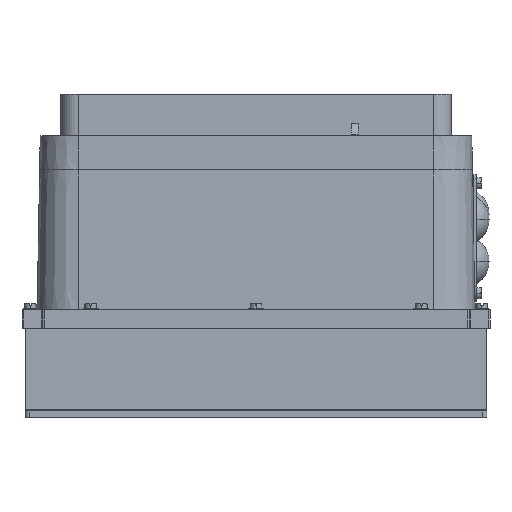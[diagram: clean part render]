
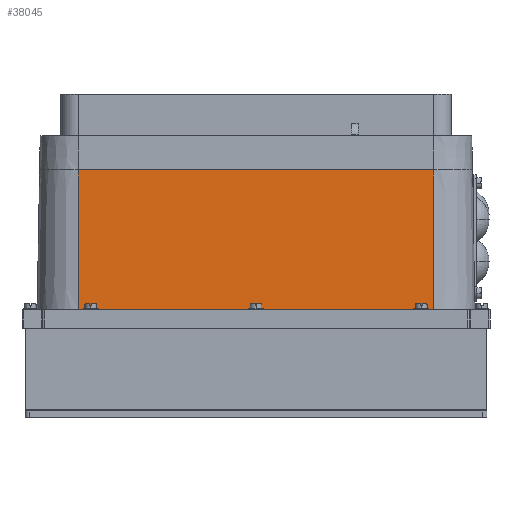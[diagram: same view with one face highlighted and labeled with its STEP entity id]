
A CAD part, left-side view. The second image highlights one B-rep face of the part: STEP entity #38045.
In plain terms, the highlighted planar face has unit normal (-1, 0, 0.018) as drawn and (-1, 0.017, 0) by its records, which use the part's own axes.
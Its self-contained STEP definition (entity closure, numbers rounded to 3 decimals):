
#26113=DIRECTION('',(0.017,1.,0.));
#26114=VECTOR('',#26113,101.515);
#26115=CARTESIAN_POINT('',(11.,13.5,-41.));
#26116=LINE('',#26115,#26114);
#26117=DIRECTION('',(0.,0.,-1.));
#26118=VECTOR('',#26117,258.);
#26119=CARTESIAN_POINT('',(12.772,115.,-41.));
#26120=LINE('',#26119,#26118);
#26173=DIRECTION('',(0.,0.,-1.));
#26174=VECTOR('',#26173,10.5);
#26175=CARTESIAN_POINT('',(11.009,14.,-284.75));
#26176=LINE('',#26175,#26174);
#26177=DIRECTION('',(-0.017,-1.,0.));
#26178=VECTOR('',#26177,0.5);
#26179=CARTESIAN_POINT('',(11.009,14.,-295.25));
#26180=LINE('',#26179,#26178);
#26181=DIRECTION('',(0.,0.,-1.));
#26182=VECTOR('',#26181,3.75);
#26183=CARTESIAN_POINT('',(11.,13.5,-295.25));
#26184=LINE('',#26183,#26182);
#26185=DIRECTION('',(0.,0.,-1.));
#26186=VECTOR('',#26185,3.75);
#26187=CARTESIAN_POINT('',(11.,13.5,-41.));
#26188=LINE('',#26187,#26186);
#26189=DIRECTION('',(0.,0.,-1.));
#26190=VECTOR('',#26189,10.5);
#26191=CARTESIAN_POINT('',(11.009,14.,-44.75));
#26192=LINE('',#26191,#26190);
#26193=DIRECTION('',(-0.017,-1.,0.));
#26194=VECTOR('',#26193,0.5);
#26195=CARTESIAN_POINT('',(11.009,14.,-55.25));
#26196=LINE('',#26195,#26194);
#26197=DIRECTION('',(0.,0.,-1.));
#26198=VECTOR('',#26197,109.5);
#26199=CARTESIAN_POINT('',(11.,13.5,-55.25));
#26200=LINE('',#26199,#26198);
#26201=DIRECTION('',(0.,0.,-1.));
#26202=VECTOR('',#26201,10.5);
#26203=CARTESIAN_POINT('',(11.009,14.,-164.75));
#26204=LINE('',#26203,#26202);
#26205=DIRECTION('',(-0.017,-1.,0.));
#26206=VECTOR('',#26205,0.5);
#26207=CARTESIAN_POINT('',(11.009,14.,-175.25));
#26208=LINE('',#26207,#26206);
#26209=DIRECTION('',(0.,0.,-1.));
#26210=VECTOR('',#26209,109.5);
#26211=CARTESIAN_POINT('',(11.,13.5,-175.25));
#26212=LINE('',#26211,#26210);
#26245=DIRECTION('',(-0.017,-1.,0.));
#26246=VECTOR('',#26245,0.5);
#26247=CARTESIAN_POINT('',(11.009,14.,-284.75));
#26248=LINE('',#26247,#26246);
#26431=DIRECTION('',(-0.017,-1.,
0.));
#26432=VECTOR('',#26431,101.515);
#26433=CARTESIAN_POINT('',(12.772,115.,-299.));
#26434=LINE('',#26433,#26432);
#27394=DIRECTION('',(-0.017,-1.,0.));
#27395=VECTOR('',#27394,0.5);
#27396=CARTESIAN_POINT('',(11.009,14.,-44.75));
#27397=LINE('',#27396,#27395);
#27612=DIRECTION('',(-0.017,-1.,0.));
#27613=VECTOR('',#27612,0.5);
#27614=CARTESIAN_POINT('',(11.009,14.,-164.75));
#27615=LINE('',#27614,#27613);
#31781=CARTESIAN_POINT('',(11.,13.5,-299.));
#31782=VERTEX_POINT('',#31781);
#31783=CARTESIAN_POINT('',(11.,13.5,-295.25));
#31784=VERTEX_POINT('',#31783);
#31791=CARTESIAN_POINT('',(11.,13.5,-284.75));
#31792=VERTEX_POINT('',#31791);
#31793=CARTESIAN_POINT('',(11.,13.5,-175.25));
#31794=VERTEX_POINT('',#31793);
#31801=CARTESIAN_POINT('',(11.,13.5,-164.75));
#31802=VERTEX_POINT('',#31801);
#31803=CARTESIAN_POINT('',(11.,13.5,-55.25));
#31804=VERTEX_POINT('',#31803);
#31811=CARTESIAN_POINT('',(11.,13.5,-44.75));
#31812=VERTEX_POINT('',#31811);
#31813=CARTESIAN_POINT('',(11.,13.5,-41.));
#31814=VERTEX_POINT('',#31813);
#31893=CARTESIAN_POINT('',(12.772,115.,-41.));
#31894=VERTEX_POINT('',#31893);
#31895=CARTESIAN_POINT('',(12.772,115.,-299.));
#31896=VERTEX_POINT('',#31895);
#31929=CARTESIAN_POINT('',(11.009,14.,-284.75));
#31930=CARTESIAN_POINT('',(11.009,14.,-295.25));
#31931=VERTEX_POINT('',#31929);
#31932=VERTEX_POINT('',#31930);
#31933=CARTESIAN_POINT('',(11.009,14.,-44.75));
#31934=VERTEX_POINT('',#31933);
#31935=CARTESIAN_POINT('',(11.009,14.,-55.25));
#31936=VERTEX_POINT('',#31935);
#31937=CARTESIAN_POINT('',(11.009,14.,-164.75));
#31938=VERTEX_POINT('',#31937);
#31939=CARTESIAN_POINT('',(11.009,14.,-175.25));
#31940=VERTEX_POINT('',#31939);
#38012=CARTESIAN_POINT('',(11.,13.5,-335.571));
#38013=DIRECTION('',(-1.,0.017,0.));
#38014=DIRECTION('',(0.,0.,1.));
#38015=AXIS2_PLACEMENT_3D('',#38012,#38013,#38014);
#38016=PLANE('',#38015);
#38018=ORIENTED_EDGE('',*,*,#38017,.T.);
#38020=ORIENTED_EDGE('',*,*,#38019,.T.);
#38021=ORIENTED_EDGE('',*,*,#37343,.T.);
#38023=ORIENTED_EDGE('',*,*,#38022,.F.);
#38024=ORIENTED_EDGE('',*,*,#37969,.F.);
#38025=ORIENTED_EDGE('',*,*,#37959,.F.);
#38026=ORIENTED_EDGE('',*,*,#37373,.T.);
#38028=ORIENTED_EDGE('',*,*,#38027,.F.);
#38030=ORIENTED_EDGE('',*,*,#38029,.T.);
#38032=ORIENTED_EDGE('',*,*,#38031,.T.);
#38033=ORIENTED_EDGE('',*,*,#37363,.T.);
#38035=ORIENTED_EDGE('',*,*,#38034,.F.);
#38037=ORIENTED_EDGE('',*,*,#38036,.T.);
#38039=ORIENTED_EDGE('',*,*,#38038,.T.);
#38040=ORIENTED_EDGE('',*,*,#37353,.T.);
#38042=ORIENTED_EDGE('',*,*,#38041,.F.);
#38043=EDGE_LOOP('',(#38018,#38020,#38021,#38023,#38024,#38025,#38026,#38028,
#38030,#38032,#38033,#38035,#38037,#38039,#38040,#38042));
#38044=FACE_OUTER_BOUND('',#38043,.F.);
#38045=ADVANCED_FACE('',(#38044),#38016,.T.);
#37343=EDGE_CURVE('',#31784,#31782,#26184,.T.);
#37353=EDGE_CURVE('',#31794,#31792,#26212,.T.);
#37363=EDGE_CURVE('',#31804,#31802,#26200,.T.);
#37373=EDGE_CURVE('',#31814,#31812,#26188,.T.);
#37959=EDGE_CURVE('',#31814,#31894,#26116,.T.);
#37969=EDGE_CURVE('',#31894,#31896,#26120,.T.);
#38017=EDGE_CURVE('',#31931,#31932,#26176,.T.);
#38019=EDGE_CURVE('',#31932,#31784,#26180,.T.);
#38022=EDGE_CURVE('',#31896,#31782,#26434,.T.);
#38027=EDGE_CURVE('',#31934,#31812,#27397,.T.);
#38029=EDGE_CURVE('',#31934,#31936,#26192,.T.);
#38031=EDGE_CURVE('',#31936,#31804,#26196,.T.);
#38034=EDGE_CURVE('',#31938,#31802,#27615,.T.);
#38036=EDGE_CURVE('',#31938,#31940,#26204,.T.);
#38038=EDGE_CURVE('',#31940,#31794,#26208,.T.);
#38041=EDGE_CURVE('',#31931,#31792,#26248,.T.);
